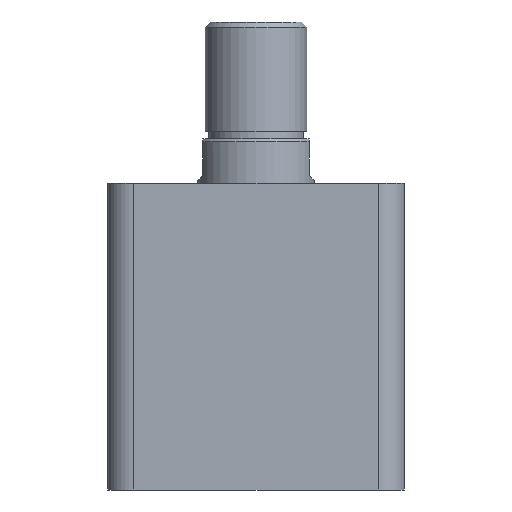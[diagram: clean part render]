
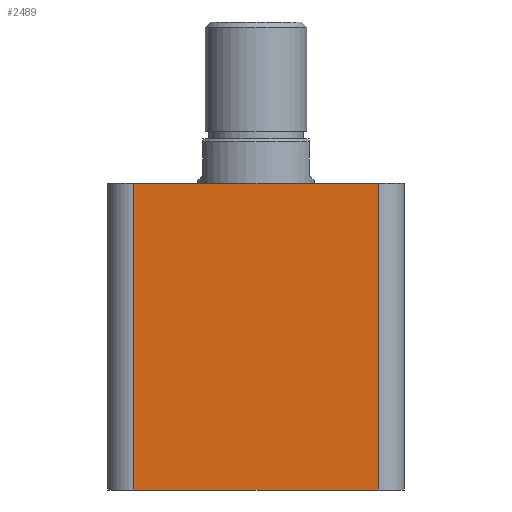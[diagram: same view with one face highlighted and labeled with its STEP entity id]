
A CAD part, front view. The second image highlights one B-rep face of the part: STEP entity #2489.
In plain terms, the highlighted planar face has unit normal (0, -1, 0).
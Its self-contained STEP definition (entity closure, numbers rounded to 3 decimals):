
#19 = ORIENTED_EDGE ( 'NONE', *, *, #2035, .F. ) ;
#20 = ORIENTED_EDGE ( 'NONE', *, *, #2033, .T. ) ;
#21 = ORIENTED_EDGE ( 'NONE', *, *, #2036, .T. ) ;
#22 = ORIENTED_EDGE ( 'NONE', *, *, #2034, .T. ) ;
#407 = CARTESIAN_POINT ( 'NONE',  ( -57., -57., 118. ) ) ;
#409 = PLANE ( 'NONE',  #1910 ) ;
#411 = DIRECTION ( 'NONE',  ( 0., 1., 0. ) ) ;
#412 = DIRECTION ( 'NONE',  ( 0., 0., 1. ) ) ;
#491 = CARTESIAN_POINT ( 'NONE',  ( 47., -57., 118. ) ) ;
#511 = CARTESIAN_POINT ( 'NONE',  ( -47., -57., 0. ) ) ;
#809 = LINE ( 'NONE', #1546, #820 ) ;
#815 = LINE ( 'NONE', #1557, #818 ) ;
#818 = VECTOR ( 'NONE', #1558, 1000. ) ;
#819 = LINE ( 'NONE', #1560, #822 ) ;
#820 = VECTOR ( 'NONE', #1559, 1000. ) ;
#821 = LINE ( 'NONE', #1562, #824 ) ;
#822 = VECTOR ( 'NONE', #1561, 1000. ) ;
#824 = VECTOR ( 'NONE', #1563, 1000. ) ;
#940 = FACE_OUTER_BOUND ( 'NONE', #2666, .T. ) ;
#1546 = CARTESIAN_POINT ( 'NONE',  ( 47., -57., 118. ) ) ;
#1551 = CARTESIAN_POINT ( 'NONE',  ( 47., -57., 0. ) ) ;
#1557 = CARTESIAN_POINT ( 'NONE',  ( -57., -57., 0. ) ) ;
#1558 = DIRECTION ( 'NONE',  ( 1., 0., 0. ) ) ;
#1559 = DIRECTION ( 'NONE',  ( 0., 0., 1. ) ) ;
#1560 = CARTESIAN_POINT ( 'NONE',  ( -57., -57., 118. ) ) ;
#1561 = DIRECTION ( 'NONE',  ( 1., 0., 0. ) ) ;
#1562 = CARTESIAN_POINT ( 'NONE',  ( -47., -57., 118. ) ) ;
#1563 = DIRECTION ( 'NONE',  ( 0., 0., -1. ) ) ;
#1565 = CARTESIAN_POINT ( 'NONE',  ( -47., -57., 118. ) ) ;
#1910 = AXIS2_PLACEMENT_3D ( 'NONE', #407, #411, #412 ) ;
#2033 = EDGE_CURVE ( 'NONE', #2533, #2040, #815, .T. ) ;
#2034 = EDGE_CURVE ( 'NONE', #2040, #2521, #809, .T. ) ;
#2035 = EDGE_CURVE ( 'NONE', #2132, #2521, #819, .T. ) ;
#2036 = EDGE_CURVE ( 'NONE', #2132, #2533, #821, .T. ) ;
#2040 = VERTEX_POINT ( 'NONE', #1551 ) ;
#2132 = VERTEX_POINT ( 'NONE', #1565 ) ;
#2489 = ADVANCED_FACE ( 'NONE', ( #940 ), #409, .F. ) ;
#2521 = VERTEX_POINT ( 'NONE', #491 ) ;
#2533 = VERTEX_POINT ( 'NONE', #511 ) ;
#2666 = EDGE_LOOP ( 'NONE', ( #20, #22, #19, #21 ) ) ;
